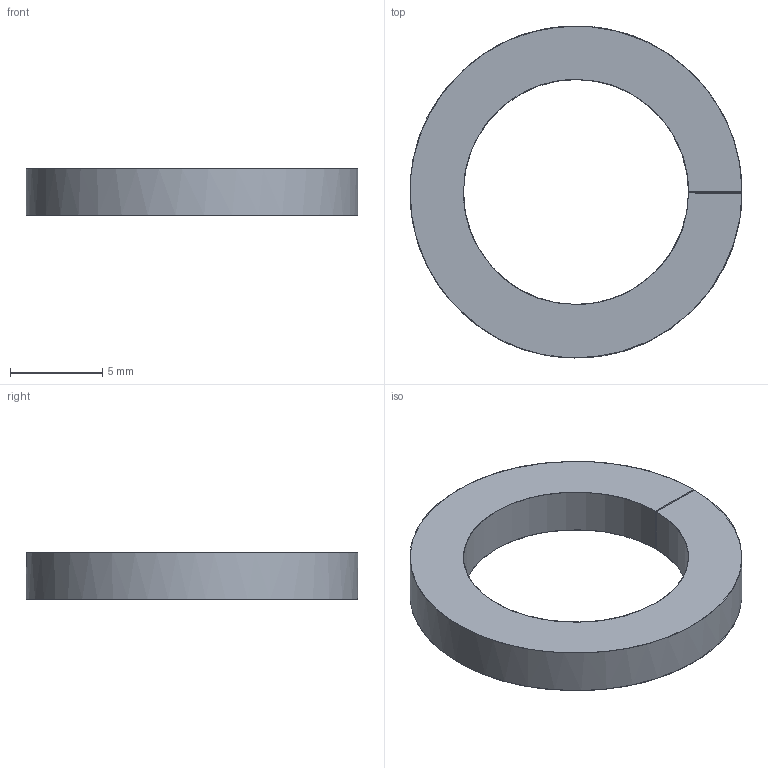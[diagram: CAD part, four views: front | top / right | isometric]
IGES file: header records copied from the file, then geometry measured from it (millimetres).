
Global section: file name: E:\UnigraphicsGraphicData\MISUMI_PRESS-PARTS\IGES\3d_cbw12_06368_r00.igs; native system: NX V5.0; preprocessor: UGS NX IGES V5.0; author: MISUMI; date: 20110105.160204; units: millimetre
Bounding box: 18 x 18 x 2.5 mm (x, y, z)
Surface area: 527.5 mm2 (no closed solid volume)
Topology: 0 solids, 0 shells, 6 faces, 52 edges, 52 vertices
Faces by surface type: bspline 6
